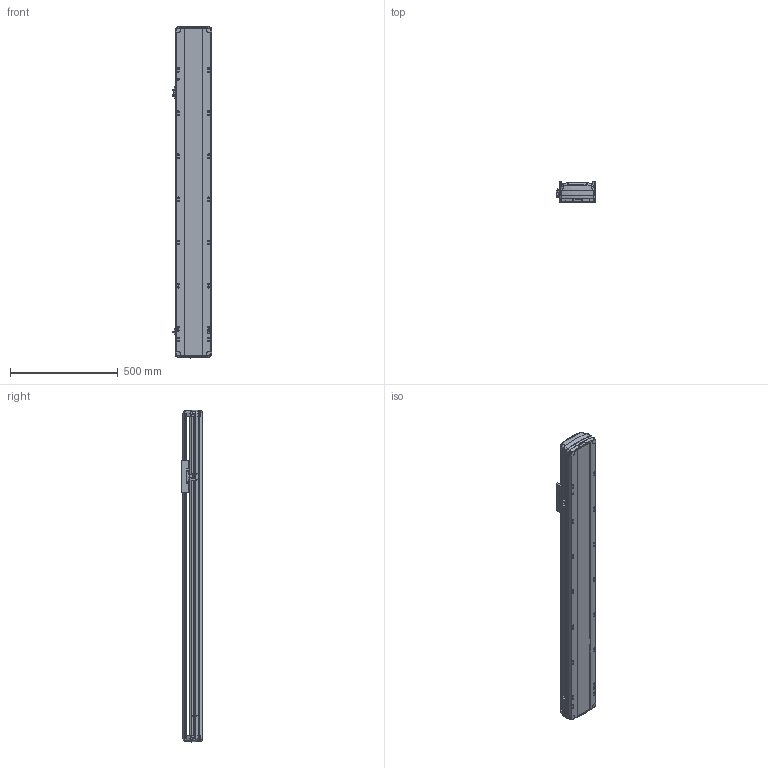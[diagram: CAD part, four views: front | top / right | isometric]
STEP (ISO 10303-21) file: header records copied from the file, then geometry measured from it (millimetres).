
FILE_DESCRIPTION (( 'STEP AP214' ), '1' );
FILE_NAME ('RTH17-XX-1100-B-M40B-C4.STEP', '2025-10-24T09:20:01', ( '' ), ( '' ), 'SwSTEP 2.0', 'SolidWorks 2018', '' );
FILE_SCHEMA (( 'AUTOMOTIVE_DESIGN' ));
Length unit declared in the file: millimetre
Products named in the file (7): N_RTH17-E-004丝杆螺母连接座^RTH17-XX-XX-B-M40B-C4（方程式）; N_RTH17-GY-001P^RTH17-XX-XX-B-M40B-C4（方程式）; N_RTH17-M-011B底座^RTH17-XX-XX-B-M40B-C4（方程式）; N_OMRON EE-SX672 換覜ん^RTH17-XX-XX-B-M40B-C4ㄗ源最宒ㄘ; N_RTH17-M-007B上盖^RTH17-XX-XX-B-M40B-C4（方程式）; N_RTH-L-012 感应片(外置)^RTH17-XX-XX-B-M40B-C4（方程式）; RTH17-XX-1100-B-M40B-C4
Assembly tree (9 placements, depth 2):
  RTH17-XX-1100-B-M40B-C4
    N_RTH17-M-011B底座^RTH17-XX-XX-B-M40B-C4（方程式）
    N_RTH17-M-007B上盖^RTH17-XX-XX-B-M40B-C4（方程式）
    N_OMRON EE-SX672 換覜ん^RTH17-XX-XX-B-M40B-C4ㄗ源最宒ㄘ  x3
    N_RTH-L-012 感应片(外置)^RTH17-XX-XX-B-M40B-C4（方程式）
    N_RTH17-E-004丝杆螺母连接座^RTH17-XX-XX-B-M40B-C4（方程式）
    N_RTH17-GY-001P^RTH17-XX-XX-B-M40B-C4（方程式）  x2
Bounding box: 183.5 x 97 x 1539.88 mm (x, y, z)
Volume: 11158757.6 mm3; surface area: 1516303.9 mm2
Topology: 7 solids, 11 shells, 1768 faces, 4988 edges, 3242 vertices
Faces by surface type: plane 815, cylinder 487, bspline 420, cone 28, torus 18
Entity records: 42582 total; most frequent: CARTESIAN_POINT 17551, ORIENTED_EDGE 5480, DIRECTION 4336, EDGE_CURVE 2744, VERTEX_POINT 1796, VECTOR 1472, LINE 1472, AXIS2_PLACEMENT_3D 1432
